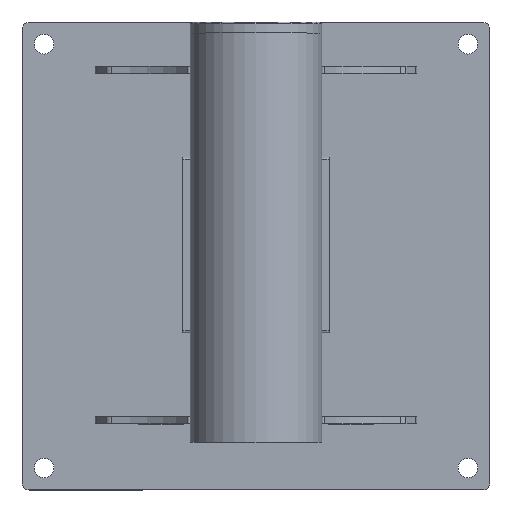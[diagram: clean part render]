
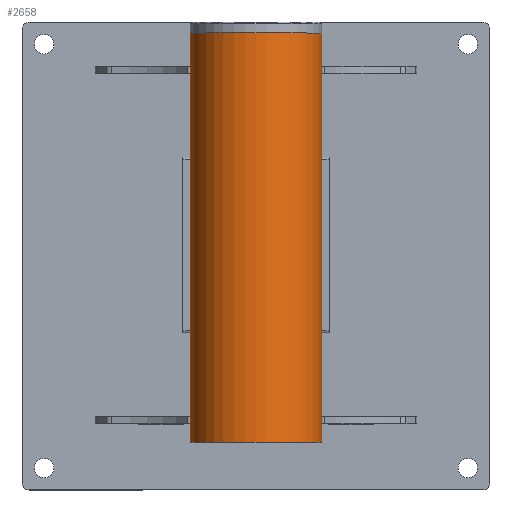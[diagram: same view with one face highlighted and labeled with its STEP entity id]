
A CAD part, top view. The second image highlights one B-rep face of the part: STEP entity #2658.
In plain terms, the highlighted cylindrical face has radius 57.15 mm (diameter 114.3 mm), a partial arc.
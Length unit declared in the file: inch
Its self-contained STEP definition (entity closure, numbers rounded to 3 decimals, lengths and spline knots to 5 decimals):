
#38 = DIRECTION ( 'NONE',  ( 0., 0., -1. ) ) ;
#119 = DIRECTION ( 'NONE',  ( -1., 0., 0. ) ) ;
#331 = CIRCLE ( 'NONE', #2828, 2.25 ) ;
#492 = CYLINDRICAL_SURFACE ( 'NONE', #1935, 2.25 ) ;
#717 = CARTESIAN_POINT ( 'NONE',  ( 2.25, 0., 0. ) ) ;
#723 = ORIENTED_EDGE ( 'NONE', *, *, #1642, .F. ) ;
#862 = EDGE_CURVE ( 'NONE', #1682, #1984, #2127, .T. ) ;
#1006 = LINE ( 'NONE', #3570, #1330 ) ;
#1116 = CARTESIAN_POINT ( 'NONE',  ( 0., 0., 14. ) ) ;
#1330 = VECTOR ( 'NONE', #3921, 39.37008 ) ;
#1389 = CARTESIAN_POINT ( 'NONE',  ( 0., 0., 14. ) ) ;
#1642 = EDGE_CURVE ( 'NONE', #5310, #4786, #331, .T. ) ;
#1682 = VERTEX_POINT ( 'NONE', #717 ) ;
#1935 = AXIS2_PLACEMENT_3D ( 'NONE', #1389, #38, #119 ) ;
#1984 = VERTEX_POINT ( 'NONE', #4854 ) ;
#2127 = CIRCLE ( 'NONE', #2739, 2.25 ) ;
#2258 = FACE_OUTER_BOUND ( 'NONE', #3558, .T. ) ;
#2627 = CARTESIAN_POINT ( 'NONE',  ( 2.25, 0., 14. ) ) ;
#2636 = DIRECTION ( 'NONE',  ( 0., 0., 1. ) ) ;
#2654 = EDGE_CURVE ( 'NONE', #5310, #1682, #3911, .T. ) ;
#2658 = ADVANCED_FACE ( 'NONE', ( #2258 ), #492, .T. ) ;
#2739 = AXIS2_PLACEMENT_3D ( 'NONE', #4764, #2636, #3540 ) ;
#2780 = CARTESIAN_POINT ( 'NONE',  ( -2.25, 0., 14. ) ) ;
#2828 = AXIS2_PLACEMENT_3D ( 'NONE', #1116, #5477, #5409 ) ;
#2989 = ORIENTED_EDGE ( 'NONE', *, *, #3734, .F. ) ;
#3031 = VECTOR ( 'NONE', #4801, 39.37008 ) ;
#3540 = DIRECTION ( 'NONE',  ( 1., 0., 0. ) ) ;
#3558 = EDGE_LOOP ( 'NONE', ( #723, #4068, #4823, #2989 ) ) ;
#3570 = CARTESIAN_POINT ( 'NONE',  ( -2.25, 0., 14. ) ) ;
#3734 = EDGE_CURVE ( 'NONE', #4786, #1984, #1006, .T. ) ;
#3911 = LINE ( 'NONE', #2627, #3031 ) ;
#3921 = DIRECTION ( 'NONE',  ( 0., 0., -1. ) ) ;
#4068 = ORIENTED_EDGE ( 'NONE', *, *, #2654, .T. ) ;
#4764 = CARTESIAN_POINT ( 'NONE',  ( 0., 0., 0. ) ) ;
#4786 = VERTEX_POINT ( 'NONE', #2780 ) ;
#4801 = DIRECTION ( 'NONE',  ( 0., 0., -1. ) ) ;
#4823 = ORIENTED_EDGE ( 'NONE', *, *, #862, .T. ) ;
#4841 = CARTESIAN_POINT ( 'NONE',  ( 2.25, 0., 14. ) ) ;
#4854 = CARTESIAN_POINT ( 'NONE',  ( -2.25, 0., 0. ) ) ;
#5310 = VERTEX_POINT ( 'NONE', #4841 ) ;
#5409 = DIRECTION ( 'NONE',  ( 1., 0., 0. ) ) ;
#5477 = DIRECTION ( 'NONE',  ( 0., 0., 1. ) ) ;
